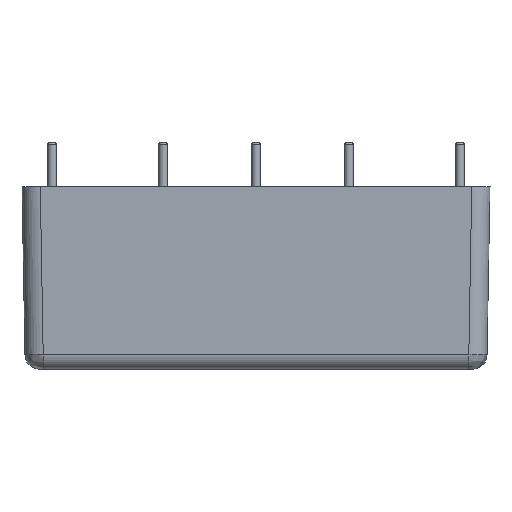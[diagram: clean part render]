
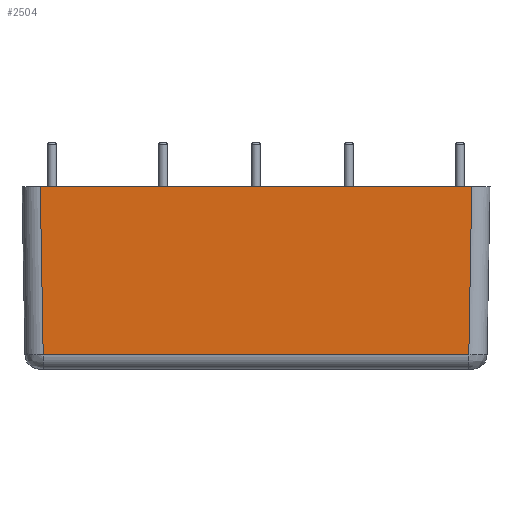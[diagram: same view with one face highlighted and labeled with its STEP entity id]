
A CAD part, left-side view. The second image highlights one B-rep face of the part: STEP entity #2504.
In plain terms, the highlighted planar face has unit normal (-1, 0, -0.018) as drawn and (1, 0, 0.017) by its records, which use the part's own axes.
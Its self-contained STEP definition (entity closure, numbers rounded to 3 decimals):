
#330=FACE_OUTER_BOUND($,#468,.T.);
#468=EDGE_LOOP($,(#2019,#2020,#2021,#2022));
#716=LINE($,#4083,#966);
#721=LINE($,#4163,#971);
#723=LINE($,#4166,#973);
#730=LINE($,#4177,#980);
#966=VECTOR($,#3181,23.042);
#971=VECTOR($,#3212,23.042);
#973=VECTOR($,#3216,58.297);
#980=VECTOR($,#3231,59.101);
#1193=VERTEX_POINT($,#4070);
#1197=VERTEX_POINT($,#4079);
#1207=VERTEX_POINT($,#4154);
#1210=VERTEX_POINT($,#4161);
#1497=EDGE_CURVE($,#1193,#1197,#716,.T.);
#1512=EDGE_CURVE($,#1210,#1207,#721,.T.);
#1514=EDGE_CURVE($,#1207,#1193,#723,.T.);
#1521=EDGE_CURVE($,#1210,#1197,#730,.T.);
#2019=ORIENTED_EDGE($,*,*,#1497,.F.);
#2020=ORIENTED_EDGE($,*,*,#1514,.F.);
#2021=ORIENTED_EDGE($,*,*,#1512,.F.);
#2022=ORIENTED_EDGE($,*,*,#1521,.T.);
#2387=PLANE($,#2701);
#2504=ADVANCED_FACE($,(#330),#2387,.T.);
#2701=AXIS2_PLACEMENT_3D($,#4176,#3229,#3230);
#3181=DIRECTION($,(0.017,0.017,-1.));
#3212=DIRECTION($,(-0.017,0.017,1.));
#3216=DIRECTION($,(0.,1.,0.));
#3229=DIRECTION('center_axis',(1.,0.,
0.017));
#3230=DIRECTION('ref_axis',(0.,1.,0.));
#3231=DIRECTION($,(0.,1.,0.));
#4070=CARTESIAN_POINT('',(89.098,61.198,23.035));
#4079=CARTESIAN_POINT('',(89.5,61.6,0.));
#4083=CARTESIAN_POINT($,(89.487,61.588,0.737));
#4154=CARTESIAN_POINT('',(89.098,2.902,23.035));
#4161=CARTESIAN_POINT('',(89.5,2.5,0.));
#4163=CARTESIAN_POINT($,(89.491,2.509,0.515));
#4166=CARTESIAN_POINT($,(89.098,48.075,23.035));
#4176=CARTESIAN_POINT('Origin',(89.5,64.1,0.));
#4177=CARTESIAN_POINT($,(89.5,0.,0.));
